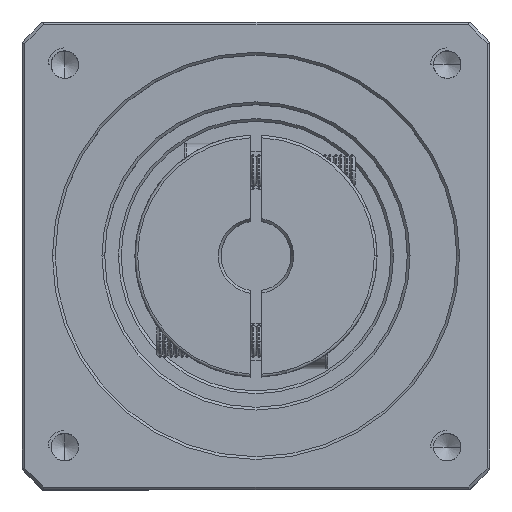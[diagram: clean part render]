
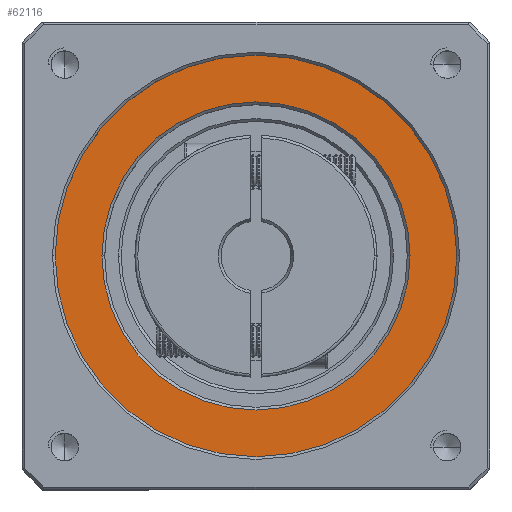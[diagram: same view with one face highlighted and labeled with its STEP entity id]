
A CAD part, top view. The second image highlights one B-rep face of the part: STEP entity #62116.
In plain terms, the highlighted planar face has unit normal (0, 0, 1).
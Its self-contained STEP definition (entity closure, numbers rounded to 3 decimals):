
#4134 = DIRECTION ( 'NONE',  ( 0., 0., -1. ) ) ;
#4723 = FACE_OUTER_BOUND ( 'NONE', #41294, .T. ) ;
#5919 = VERTEX_POINT ( 'NONE', #32181 ) ;
#6168 = EDGE_CURVE ( 'NONE', #80003, #5919, #57936, .T. ) ;
#6401 = AXIS2_PLACEMENT_3D ( 'NONE', #56026, #124794, #65899 ) ;
#7541 = PLANE ( 'NONE',  #126990 ) ;
#7953 = CARTESIAN_POINT ( 'NONE',  ( 42.992, 11.253, 99.75 ) ) ;
#15112 = CIRCLE ( 'NONE', #6401, 28. ) ;
#17803 = DIRECTION ( 'NONE',  ( 1., 0., 0. ) ) ;
#30775 = CARTESIAN_POINT ( 'NONE',  ( 42.992, 11.253, 99.75 ) ) ;
#32181 = CARTESIAN_POINT ( 'NONE',  ( 6.492, 11.253, 99.75 ) ) ;
#33344 = DIRECTION ( 'NONE',  ( 0., 0., 1. ) ) ;
#33409 = EDGE_LOOP ( 'NONE', ( #49143, #87144 ) ) ;
#34019 = FACE_BOUND ( 'NONE', #33409, .T. ) ;
#34529 = AXIS2_PLACEMENT_3D ( 'NONE', #30775, #99576, #40645 ) ;
#34877 = AXIS2_PLACEMENT_3D ( 'NONE', #92206, #33344, #102112 ) ;
#40645 = DIRECTION ( 'NONE',  ( 1., 0., 0. ) ) ;
#40646 = VERTEX_POINT ( 'NONE', #124082 ) ;
#41294 = EDGE_LOOP ( 'NONE', ( #81559, #122850 ) ) ;
#49143 = ORIENTED_EDGE ( 'NONE', *, *, #121717, .T. ) ;
#50547 = CIRCLE ( 'NONE', #83895, 28. ) ;
#56026 = CARTESIAN_POINT ( 'NONE',  ( 42.992, 11.253, 99.75 ) ) ;
#57003 = CARTESIAN_POINT ( 'NONE',  ( 79.492, 11.253, 99.75 ) ) ;
#57141 = CIRCLE ( 'NONE', #34877, 36.5 ) ;
#57290 = VERTEX_POINT ( 'NONE', #97608 ) ;
#57936 = CIRCLE ( 'NONE', #34529, 36.5 ) ;
#62116 = ADVANCED_FACE ( 'NONE', ( #4723, #34019 ), #7541, .T. ) ;
#63155 = CARTESIAN_POINT ( 'NONE',  ( 42.992, 11.253, 99.75 ) ) ;
#65899 = DIRECTION ( 'NONE',  ( 1., 0., 0. ) ) ;
#73039 = DIRECTION ( 'NONE',  ( 1., 0., 0. ) ) ;
#76844 = DIRECTION ( 'NONE',  ( 0., 0., 1. ) ) ;
#77846 = EDGE_CURVE ( 'NONE', #40646, #57290, #50547, .T. ) ;
#80003 = VERTEX_POINT ( 'NONE', #57003 ) ;
#81559 = ORIENTED_EDGE ( 'NONE', *, *, #6168, .T. ) ;
#83895 = AXIS2_PLACEMENT_3D ( 'NONE', #63155, #4134, #73039 ) ;
#87144 = ORIENTED_EDGE ( 'NONE', *, *, #77846, .T. ) ;
#92206 = CARTESIAN_POINT ( 'NONE',  ( 42.992, 11.253, 99.75 ) ) ;
#97608 = CARTESIAN_POINT ( 'NONE',  ( 70.992, 11.253, 99.75 ) ) ;
#99576 = DIRECTION ( 'NONE',  ( 0., 0., 1. ) ) ;
#102112 = DIRECTION ( 'NONE',  ( 1., 0., 0. ) ) ;
#121717 = EDGE_CURVE ( 'NONE', #57290, #40646, #15112, .T. ) ;
#122850 = ORIENTED_EDGE ( 'NONE', *, *, #124905, .T. ) ;
#124082 = CARTESIAN_POINT ( 'NONE',  ( 14.992, 11.253, 99.75 ) ) ;
#124794 = DIRECTION ( 'NONE',  ( 0., 0., -1. ) ) ;
#124905 = EDGE_CURVE ( 'NONE', #5919, #80003, #57141, .T. ) ;
#126990 = AXIS2_PLACEMENT_3D ( 'NONE', #7953, #76844, #17803 ) ;
